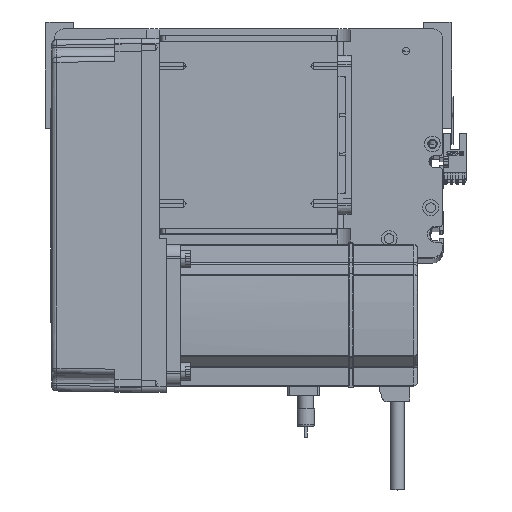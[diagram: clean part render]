
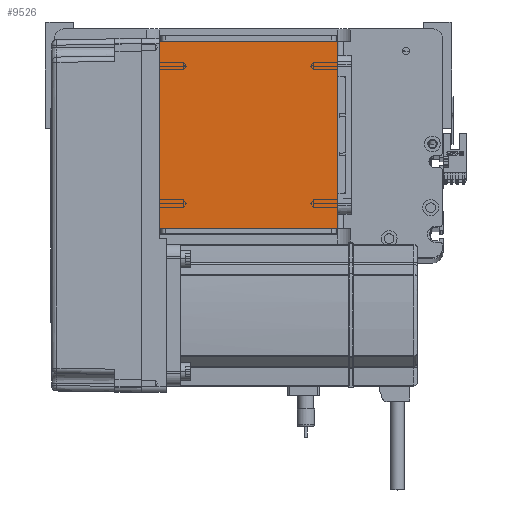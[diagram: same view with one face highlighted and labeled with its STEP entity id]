
A CAD part, top view. The second image highlights one B-rep face of the part: STEP entity #9526.
In plain terms, the highlighted planar face has unit normal (0, 0, 1).
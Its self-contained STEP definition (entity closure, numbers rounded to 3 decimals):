
#986 = EDGE_LOOP ( 'NONE', ( #35895, #33783, #3074, #10467 ) ) ;
#1880 = AXIS2_PLACEMENT_3D ( 'NONE', #16226, #28557, #3964 ) ;
#2059 = VERTEX_POINT ( 'NONE', #49784 ) ;
#2692 = LINE ( 'NONE', #17748, #17342 ) ;
#3074 = ORIENTED_EDGE ( 'NONE', *, *, #38728, .T. ) ;
#3636 = VECTOR ( 'NONE', #16273, 1000. ) ;
#3964 = DIRECTION ( 'NONE',  ( 1., 0., 0. ) ) ;
#4899 = CARTESIAN_POINT ( 'NONE',  ( -50.5, 16., 115. ) ) ;
#9526 = ADVANCED_FACE ( 'NONE', ( #14331 ), #20312, .T. ) ;
#9732 = LINE ( 'NONE', #4899, #33328 ) ;
#9755 = DIRECTION ( 'NONE',  ( -1., 0., 0. ) ) ;
#10467 = ORIENTED_EDGE ( 'NONE', *, *, #11265, .T. ) ;
#10632 = EDGE_CURVE ( 'NONE', #2059, #25564, #9732, .T. ) ;
#11265 = EDGE_CURVE ( 'NONE', #29997, #20226, #2692, .T. ) ;
#14331 = FACE_OUTER_BOUND ( 'NONE', #986, .T. ) ;
#16226 = CARTESIAN_POINT ( 'NONE',  ( 0., 0., 115. ) ) ;
#16273 = DIRECTION ( 'NONE',  ( 0., 1., 0. ) ) ;
#17342 = VECTOR ( 'NONE', #9755, 1000. ) ;
#17748 = CARTESIAN_POINT ( 'NONE',  ( -50.5, 122., 115. ) ) ;
#19030 = CARTESIAN_POINT ( 'NONE',  ( -50.5, 122., 115. ) ) ;
#20226 = VERTEX_POINT ( 'NONE', #19030 ) ;
#20312 = PLANE ( 'NONE',  #1880 ) ;
#24410 = CARTESIAN_POINT ( 'NONE',  ( 50.5, 16., 115. ) ) ;
#24913 = CARTESIAN_POINT ( 'NONE',  ( 50.5, 122., 115. ) ) ;
#25564 = VERTEX_POINT ( 'NONE', #24410 ) ;
#28557 = DIRECTION ( 'NONE',  ( 0., 0., 1. ) ) ;
#29997 = VERTEX_POINT ( 'NONE', #24913 ) ;
#31095 = LINE ( 'NONE', #40074, #49547 ) ;
#32518 = CARTESIAN_POINT ( 'NONE',  ( 50.5, 122., 115. ) ) ;
#33328 = VECTOR ( 'NONE', #41629, 1000. ) ;
#33783 = ORIENTED_EDGE ( 'NONE', *, *, #10632, .T. ) ;
#35895 = ORIENTED_EDGE ( 'NONE', *, *, #51201, .T. ) ;
#38728 = EDGE_CURVE ( 'NONE', #25564, #29997, #50128, .T. ) ;
#40074 = CARTESIAN_POINT ( 'NONE',  ( -50.5, 122., 115. ) ) ;
#41629 = DIRECTION ( 'NONE',  ( 1., 0., 0. ) ) ;
#49547 = VECTOR ( 'NONE', #52342, 1000. ) ;
#49784 = CARTESIAN_POINT ( 'NONE',  ( -50.5, 16., 115. ) ) ;
#50128 = LINE ( 'NONE', #32518, #3636 ) ;
#51201 = EDGE_CURVE ( 'NONE', #20226, #2059, #31095, .T. ) ;
#52342 = DIRECTION ( 'NONE',  ( 0., -1., 0. ) ) ;
